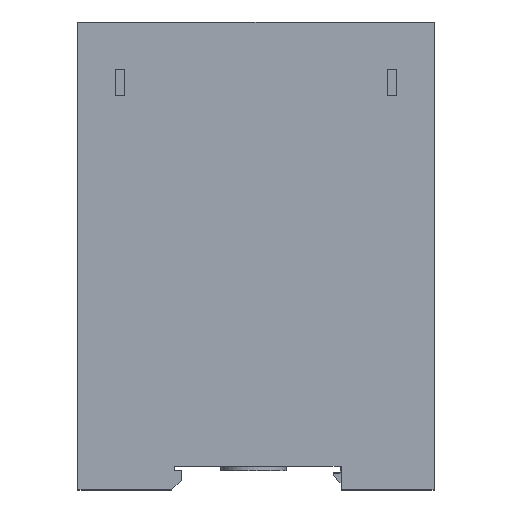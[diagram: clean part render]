
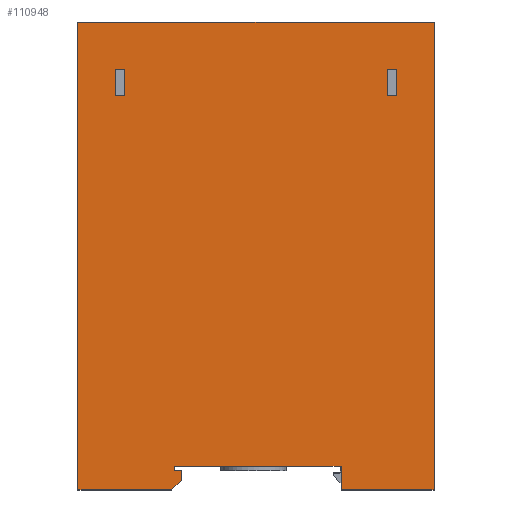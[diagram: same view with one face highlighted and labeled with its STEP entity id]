
A CAD part, top view. The second image highlights one B-rep face of the part: STEP entity #110948.
In plain terms, the highlighted planar face has unit normal (0, 0, 1).
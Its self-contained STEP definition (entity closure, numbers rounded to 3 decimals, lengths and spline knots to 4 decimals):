
#6550=FACE_BOUND('',#22495,.T.);
#6551=FACE_BOUND('',#22496,.T.);
#15782=FACE_OUTER_BOUND('',#22494,.T.);
#22494=EDGE_LOOP('',(#100848,#100849,#100850,#100851,#100852,#100853,#100854,
#100855,#100856,#100857,#100858));
#22495=EDGE_LOOP('',(#100859,#100860,#100861,#100862));
#22496=EDGE_LOOP('',(#100863,#100864,#100865,#100866));
#33090=LINE('',#188647,#44365);
#33093=LINE('',#188652,#44368);
#33668=LINE('',#189946,#44943);
#33680=LINE('',#189972,#44955);
#33684=LINE('',#189980,#44959);
#33687=LINE('',#189986,#44962);
#33690=LINE('',#189992,#44965);
#33691=LINE('',#189994,#44966);
#33692=LINE('',#189995,#44967);
#33693=LINE('',#189997,#44968);
#33694=LINE('',#189999,#44969);
#33695=LINE('',#190001,#44970);
#33696=LINE('',#190002,#44971);
#33697=LINE('',#190005,#44972);
#33698=LINE('',#190007,#44973);
#33699=LINE('',#190009,#44974);
#33700=LINE('',#190010,#44975);
#33701=LINE('',#190012,#44976);
#33702=LINE('',#190013,#44977);
#44365=VECTOR('',#134016,0.2165);
#44368=VECTOR('',#134021,0.0827);
#44943=VECTOR('',#135210,3.878);
#44955=VECTOR('',#135226,0.0591);
#44959=VECTOR('',#135232,0.0394);
#44962=VECTOR('',#135237,0.0787);
#44965=VECTOR('',#135242,1.3844);
#44966=VECTOR('',#135243,0.1969);
#44967=VECTOR('',#135244,0.7711);
#44968=VECTOR('',#135245,2.9528);
#44969=VECTOR('',#135246,3.878);
#44970=VECTOR('',#135247,0.7776);
#44971=VECTOR('',#135248,0.1114);
#44972=VECTOR('',#135249,0.0827);
#44973=VECTOR('',#135250,0.2165);
#44974=VECTOR('',#135251,0.0827);
#44975=VECTOR('',#135252,0.2165);
#44976=VECTOR('',#135253,0.2165);
#44977=VECTOR('',#135254,0.0827);
#54865=VERTEX_POINT('',#188644);
#54866=VERTEX_POINT('',#188646);
#54867=VERTEX_POINT('',#188650);
#55278=VERTEX_POINT('',#189943);
#55279=VERTEX_POINT('',#189945);
#55290=VERTEX_POINT('',#189970);
#55291=VERTEX_POINT('',#189971);
#55294=VERTEX_POINT('',#189979);
#55296=VERTEX_POINT('',#189985);
#55298=VERTEX_POINT('',#189991);
#55299=VERTEX_POINT('',#189993);
#55300=VERTEX_POINT('',#189996);
#55301=VERTEX_POINT('',#189998);
#55302=VERTEX_POINT('',#190000);
#55303=VERTEX_POINT('',#190003);
#55304=VERTEX_POINT('',#190004);
#55305=VERTEX_POINT('',#190006);
#55306=VERTEX_POINT('',#190008);
#55307=VERTEX_POINT('',#190011);
#69866=EDGE_CURVE('',#54866,#54865,#33090,.T.);
#69869=EDGE_CURVE('',#54865,#54867,#33093,.T.);
#70505=EDGE_CURVE('',#55278,#55279,#33668,.T.);
#70517=EDGE_CURVE('',#55290,#55291,#33680,.T.);
#70521=EDGE_CURVE('',#55291,#55294,#33684,.T.);
#70524=EDGE_CURVE('',#55296,#55290,#33687,.T.);
#70527=EDGE_CURVE('',#55294,#55298,#33690,.T.);
#70528=EDGE_CURVE('',#55298,#55299,#33691,.T.);
#70529=EDGE_CURVE('',#55279,#55299,#33692,.T.);
#70530=EDGE_CURVE('',#55300,#55278,#33693,.T.);
#70531=EDGE_CURVE('',#55301,#55300,#33694,.T.);
#70532=EDGE_CURVE('',#55302,#55301,#33695,.T.);
#70533=EDGE_CURVE('',#55296,#55302,#33696,.T.);
#70534=EDGE_CURVE('',#55303,#55304,#33697,.T.);
#70535=EDGE_CURVE('',#55304,#55305,#33698,.T.);
#70536=EDGE_CURVE('',#55305,#55306,#33699,.T.);
#70537=EDGE_CURVE('',#55306,#55303,#33700,.T.);
#70538=EDGE_CURVE('',#54867,#55307,#33701,.T.);
#70539=EDGE_CURVE('',#55307,#54866,#33702,.T.);
#100848=ORIENTED_EDGE('',*,*,#70517,.T.);
#100849=ORIENTED_EDGE('',*,*,#70521,.T.);
#100850=ORIENTED_EDGE('',*,*,#70527,.T.);
#100851=ORIENTED_EDGE('',*,*,#70528,.T.);
#100852=ORIENTED_EDGE('',*,*,#70529,.F.);
#100853=ORIENTED_EDGE('',*,*,#70505,.F.);
#100854=ORIENTED_EDGE('',*,*,#70530,.F.);
#100855=ORIENTED_EDGE('',*,*,#70531,.F.);
#100856=ORIENTED_EDGE('',*,*,#70532,.F.);
#100857=ORIENTED_EDGE('',*,*,#70533,.F.);
#100858=ORIENTED_EDGE('',*,*,#70524,.T.);
#100859=ORIENTED_EDGE('',*,*,#70534,.T.);
#100860=ORIENTED_EDGE('',*,*,#70535,.T.);
#100861=ORIENTED_EDGE('',*,*,#70536,.T.);
#100862=ORIENTED_EDGE('',*,*,#70537,.T.);
#100863=ORIENTED_EDGE('',*,*,#69866,.T.);
#100864=ORIENTED_EDGE('',*,*,#69869,.T.);
#100865=ORIENTED_EDGE('',*,*,#70538,.T.);
#100866=ORIENTED_EDGE('',*,*,#70539,.T.);
#105085=PLANE('',#115377);
#110948=ADVANCED_FACE('',(#15782,#6550,#6551),#105085,.T.);
#115377=AXIS2_PLACEMENT_3D('',#189990,#135240,#135241);
#134016=DIRECTION('',(0.,1.,0.));
#134021=DIRECTION('',(1.,0.,0.));
#135210=DIRECTION('',(0.,-1.,0.));
#135226=DIRECTION('',(-1.,0.,0.));
#135232=DIRECTION('',(0.,1.,0.));
#135237=DIRECTION('',(0.,1.,0.));
#135240=DIRECTION('center_axis',(0.,0.,1.));
#135241=DIRECTION('ref_axis',(1.,0.,0.));
#135242=DIRECTION('',(1.,0.,0.));
#135243=DIRECTION('',(0.,-1.,0.));
#135244=DIRECTION('',(-1.,0.,0.));
#135245=DIRECTION('',(1.,0.,0.));
#135246=DIRECTION('',(0.,1.,0.));
#135247=DIRECTION('',(-1.,0.,0.));
#135248=DIRECTION('',(-0.707,-0.707,0.));
#135249=DIRECTION('',(-1.,0.,0.));
#135250=DIRECTION('',(0.,1.,0.));
#135251=DIRECTION('',(1.,0.,0.));
#135252=DIRECTION('',(0.,-1.,0.));
#135253=DIRECTION('',(0.,-1.,0.));
#135254=DIRECTION('',(-1.,0.,0.));
#188644=CARTESIAN_POINT('',(1.0866,1.5453,0.0285));
#188646=CARTESIAN_POINT('',(1.0866,1.3287,0.0285));
#188647=CARTESIAN_POINT('',(1.0866,0.6644,0.0285));
#188650=CARTESIAN_POINT('',(1.1693,1.5453,0.0285));
#188652=CARTESIAN_POINT('',(0.5433,1.5453,0.0285));
#189943=CARTESIAN_POINT('',(1.4764,1.939,0.0285));
#189945=CARTESIAN_POINT('',(1.4764,-1.939,0.0285));
#189946=CARTESIAN_POINT('',(1.4764,1.939,0.0285));
#189970=CARTESIAN_POINT('',(-0.6201,-1.7815,0.0285));
#189971=CARTESIAN_POINT('',(-0.6791,-1.7815,0.0285));
#189972=CARTESIAN_POINT('',(-0.31,-1.7815,0.0285));
#189979=CARTESIAN_POINT('',(-0.6791,-1.7421,0.0285));
#189980=CARTESIAN_POINT('',(-0.6791,-0.8809,0.0285));
#189985=CARTESIAN_POINT('',(-0.6201,-1.8602,0.0285));
#189986=CARTESIAN_POINT('',(-0.6201,-0.9695,0.0285));
#189990=CARTESIAN_POINT('Origin',(0.,0.,
0.0285));
#189991=CARTESIAN_POINT('',(0.7053,-1.7421,0.0285));
#189992=CARTESIAN_POINT('',(-0.31,-1.7421,0.0285));
#189993=CARTESIAN_POINT('',(0.7053,-1.939,0.0285));
#189994=CARTESIAN_POINT('',(0.7053,-0.9695,0.0285));
#189995=CARTESIAN_POINT('',(1.4764,-1.939,0.0285));
#189996=CARTESIAN_POINT('',(-1.4764,1.939,0.0285));
#189997=CARTESIAN_POINT('',(-1.4764,1.939,0.0285));
#189998=CARTESIAN_POINT('',(-1.4764,-1.939,0.0285));
#189999=CARTESIAN_POINT('',(-1.4764,-1.939,0.0285));
#190000=CARTESIAN_POINT('',(-0.6988,-1.939,0.0285));
#190001=CARTESIAN_POINT('',(1.4764,-1.939,0.0285));
#190002=CARTESIAN_POINT('',(-0.0197,-1.2598,0.0285));
#190003=CARTESIAN_POINT('',(-1.0866,1.3287,0.0285));
#190004=CARTESIAN_POINT('',(-1.1693,1.3287,0.0285));
#190005=CARTESIAN_POINT('',(-0.5433,1.3287,0.0285));
#190006=CARTESIAN_POINT('',(-1.1693,1.5453,0.0285));
#190007=CARTESIAN_POINT('',(-1.1693,0.6644,0.0285));
#190008=CARTESIAN_POINT('',(-1.0866,1.5453,0.0285));
#190009=CARTESIAN_POINT('',(-0.5846,1.5453,0.0285));
#190010=CARTESIAN_POINT('',(-1.0866,0.7726,0.0285));
#190011=CARTESIAN_POINT('',(1.1693,1.3287,0.0285));
#190012=CARTESIAN_POINT('',(1.1693,0.7726,0.0285));
#190013=CARTESIAN_POINT('',(0.5846,1.3287,0.0285));
